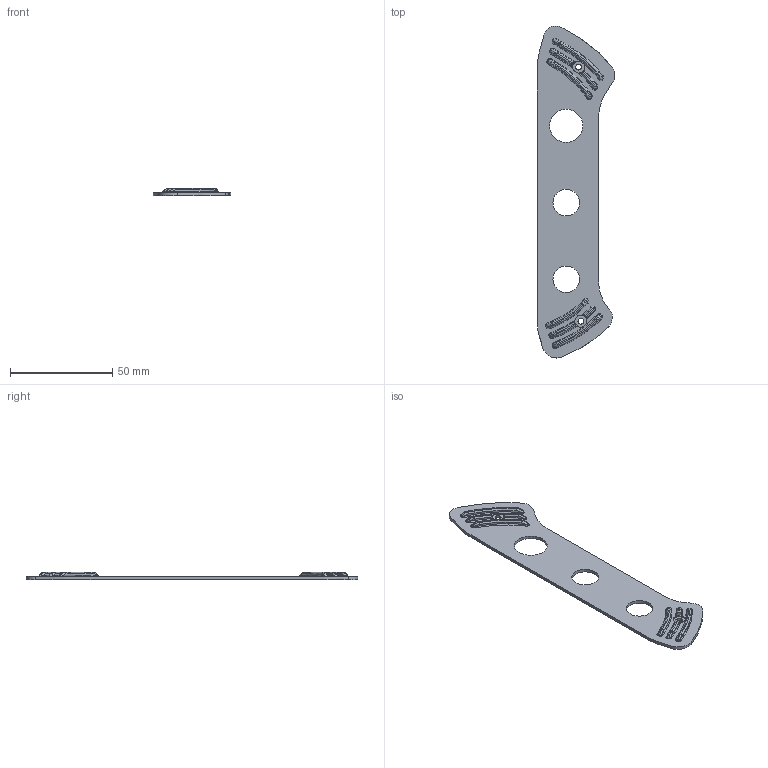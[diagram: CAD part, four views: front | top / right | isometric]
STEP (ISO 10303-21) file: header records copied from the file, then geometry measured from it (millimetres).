
FILE_DESCRIPTION(/* description */ (''),/* implementation_level */ '2;1');
FILE_NAME(/* name */ 'LAST_Base 03.stp',/* time_stamp */ '2025-11-19T21:12:40+09:00',/* author */ (''),/* organization */ (''),/* preprocessor_version */ 'ST-DEVELOPER v11',/* originating_system */ 'SIEMENS PLM Software NX 7.5',/* authorisation */ '');
FILE_SCHEMA (('CONFIG_CONTROL_DESIGN'));
Length unit declared in the file: millimetre
Products named in the file (1): gyun8741ynw9
Bounding box: 38.09 x 162.22 x 3.5 mm (x, y, z)
Volume: 7014.6 mm3; surface area: 9874.2 mm2
Topology: 1 solids, 1 shells, 156 faces, 363 edges, 218 vertices
Faces by surface type: bspline 92, cylinder 41, plane 16, extrusion 7
Full cylindrical faces by diameter (mm): 2.9 x2, 5.9 x2, 13 x2, 16.2 x1
Entity records: 7099 total; most frequent: CARTESIAN_POINT 4143, ORIENTED_EDGE 706, DIRECTION 401, EDGE_CURVE 353, VERTEX_POINT 215, B_SPLINE_CURVE_WITH_KNOTS 191, EDGE_LOOP 182, AXIS2_PLACEMENT_3D 166
